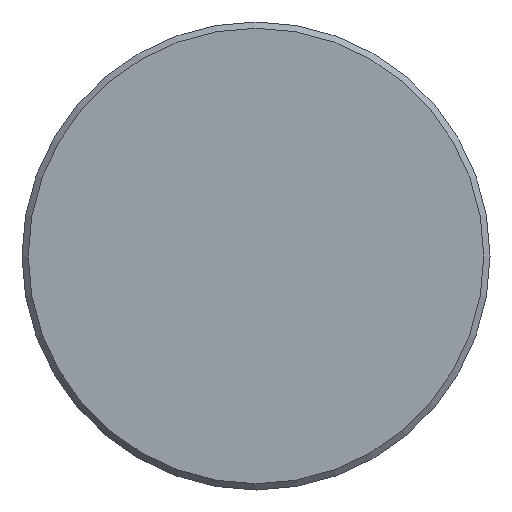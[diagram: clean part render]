
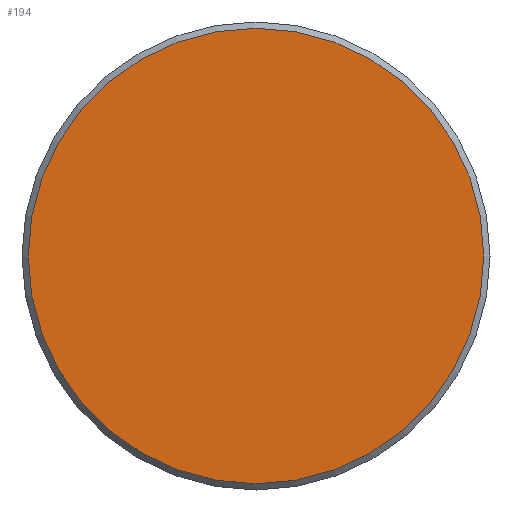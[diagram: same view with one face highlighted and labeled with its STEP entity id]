
A CAD part, front view. The second image highlights one B-rep face of the part: STEP entity #194.
In plain terms, the highlighted planar face has unit normal (0, -1, 0).
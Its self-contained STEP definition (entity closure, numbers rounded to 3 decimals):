
#194 = ADVANCED_FACE( '', ( #382 ), #383, .F. );
#382 = FACE_OUTER_BOUND( '', #578, .T. );
#383 = PLANE( '', #579 );
#578 = EDGE_LOOP( '', ( #874 ) );
#579 = AXIS2_PLACEMENT_3D( '', #875, #876, #877 );
#874 = ORIENTED_EDGE( '', *, *, #1163, .T. );
#875 = CARTESIAN_POINT( '', ( 29.2, 0., 0. ) );
#876 = DIRECTION( '', ( 0., 1., 0. ) );
#877 = DIRECTION( '', ( 0., 0., 1. ) );
#1163 = EDGE_CURVE( '', #1365, #1365, #1366, .T. );
#1365 = VERTEX_POINT( '', #1743 );
#1366 = CIRCLE( '', #1744, 29.2 );
#1743 = CARTESIAN_POINT( '', ( 0., 0., -29.2 ) );
#1744 = AXIS2_PLACEMENT_3D( '', #2037, #2038, #2039 );
#2037 = CARTESIAN_POINT( '', ( 0., 0., 0. ) );
#2038 = DIRECTION( '', ( 0., -1., 0. ) );
#2039 = DIRECTION( '', ( 0., 0., -1. ) );
